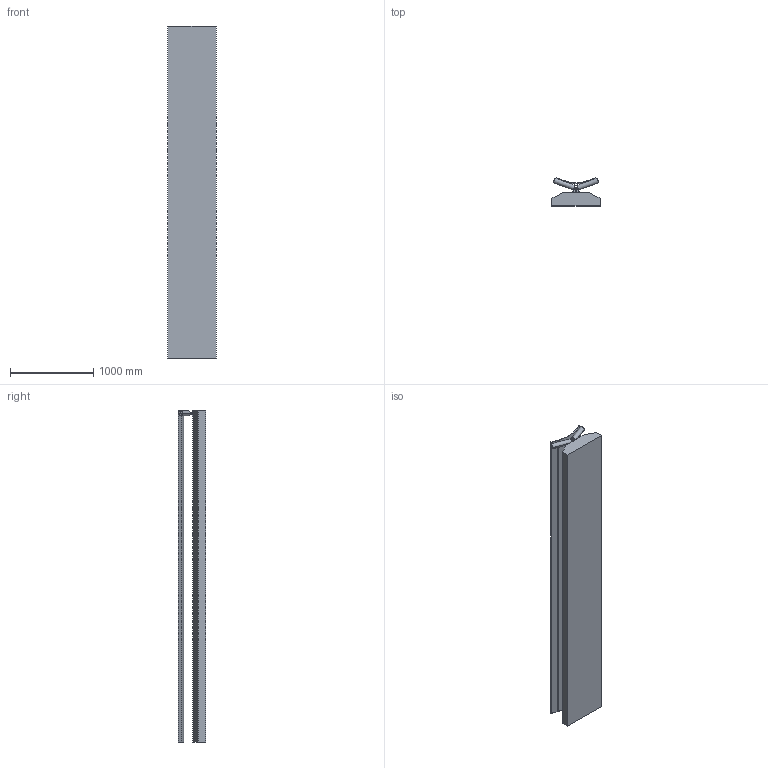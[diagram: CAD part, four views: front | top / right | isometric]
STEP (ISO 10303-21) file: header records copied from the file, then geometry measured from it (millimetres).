
FILE_DESCRIPTION (( 'STEP AP203' ), '1' );
FILE_NAME ('29626.step', '2019-03-14T14:30:48', ( 'PC' ), ( 'Hewlett-Packard Company' ), 'SwSTEP 2.0', 'SolidWorks 2016', '' );
FILE_SCHEMA (( 'CONFIG_CONTROL_DESIGN' ));
Length unit declared in the file: millimetre
Products named in the file (1): 29626
Bounding box: 580 x 336.24 x 4000 mm (x, y, z)
Volume: 348249563.1 mm3; surface area: 9966077.5 mm2
Topology: 4 solids, 6 shells, 170 faces, 422 edges, 250 vertices
Faces by surface type: cylinder 76, plane 58, torus 12, bspline 12, cone 8, sphere 4
Entity records: 5802 total; most frequent: CARTESIAN_POINT 1763, DIRECTION 855, ORIENTED_EDGE 812, EDGE_CURVE 406, AXIS2_PLACEMENT_3D 326, VERTEX_POINT 250, VECTOR 203, LINE 203
